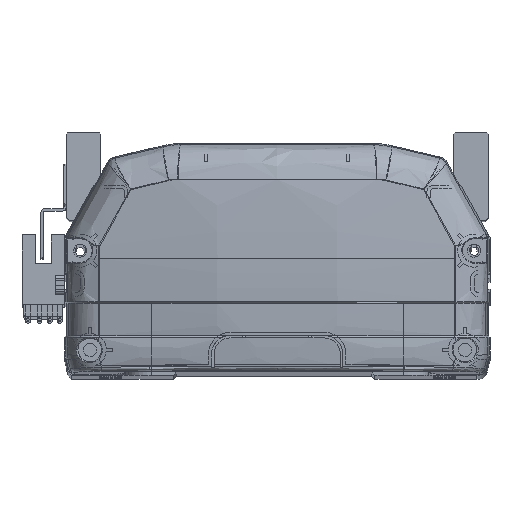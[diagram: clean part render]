
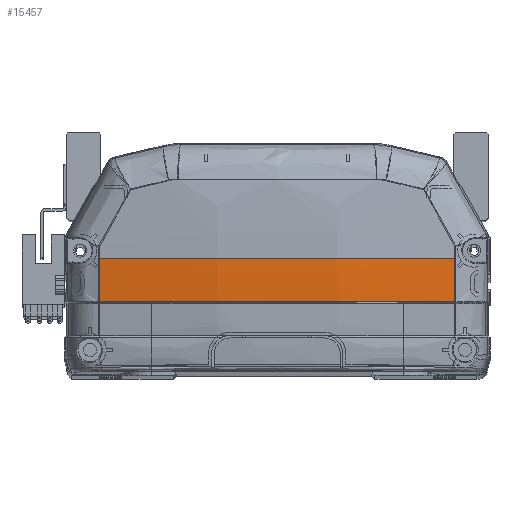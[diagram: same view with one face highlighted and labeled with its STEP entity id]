
A CAD part, top view. The second image highlights one B-rep face of the part: STEP entity #15457.
In plain terms, the highlighted free-form (B-spline) face has degree [3, 3] with [4, 4] control points.
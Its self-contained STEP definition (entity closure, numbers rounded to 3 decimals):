
#220 = CARTESIAN_POINT ( 'NONE',  ( 19.295, 36., -11.535 ) ) ;
#4138 = CARTESIAN_POINT ( 'NONE',  ( 19.295, 31.274, -11.535 ) ) ;
#4509 = CARTESIAN_POINT ( 'NONE',  ( -57.335, 26.762, -4.928 ) ) ;
#4638 = CARTESIAN_POINT ( 'NONE',  ( 19.121, 22.225, -9.064 ) ) ;
#4718 = CARTESIAN_POINT ( 'NONE',  ( 57.335, 36., -5.042 ) ) ;
#5560 = CARTESIAN_POINT ( 'NONE',  ( -56.661, 22.225, -4.818 ) ) ;
#6009 = DIRECTION ( 'NONE',  ( -1., 0., 0. ) ) ;
#7589 = CIRCLE ( 'NONE', #10619, 340.733 ) ;
#8164 = CARTESIAN_POINT ( 'NONE',  ( 56.661, 22.225, -4.818 ) ) ;
#8830 = EDGE_CURVE ( 'NONE', #47035, #22614, #49602, .T. ) ;
#8835 = CARTESIAN_POINT ( 'NONE',  ( -56.647, 36., -5.158 ) ) ;
#9017 = CARTESIAN_POINT ( 'NONE',  ( 57.335, 31.38, -5.042 ) ) ;
#9913 = CARTESIAN_POINT ( 'NONE',  ( 2.357, 22.225, -9.562 ) ) ;
#10027 =( BOUNDED_SURFACE ( )  B_SPLINE_SURFACE ( 3, 3, ( 
 ( #52849, #21821, #9017, #4718 ),
 ( #30746, #13288, #4138, #220 ),
 ( #13678, #30545, #31324, #40258 ),
 ( #13106, #4509, #35234, #22019 ) ),
 .UNSPECIFIED., .F., .F., .F. ) 
 B_SPLINE_SURFACE_WITH_KNOTS ( ( 4, 4 ),
 ( 4, 4 ),
 ( 0., 1. ),
 ( 0., 1. ),
 .UNSPECIFIED. ) 
 GEOMETRIC_REPRESENTATION_ITEM ( )  RATIONAL_B_SPLINE_SURFACE ( (
 ( 1., 1., 1., 1.),
 ( 0.99, 0.99, 0.99, 0.99),
 ( 0.99, 0.99, 0.99, 0.99),
 ( 1., 1., 1., 1.) ) ) 
 REPRESENTATION_ITEM ( '' )  SURFACE ( )  );
#10418 = EDGE_CURVE ( 'NONE', #25005, #12265, #30317, .T. ) ;
#10619 = AXIS2_PLACEMENT_3D ( 'NONE', #49246, #36068, #18016 ) ;
#12265 = VERTEX_POINT ( 'NONE', #40463 ) ;
#13106 = CARTESIAN_POINT ( 'NONE',  ( -57.335, 22.148, -4.7 ) ) ;
#13288 = CARTESIAN_POINT ( 'NONE',  ( 19.295, 26.549, -11.419 ) ) ;
#13678 = CARTESIAN_POINT ( 'NONE',  ( -19.295, 21.828, -11.186 ) ) ;
#13746 = ORIENTED_EDGE ( 'NONE', *, *, #50954, .F. ) ;
#14117 = CARTESIAN_POINT ( 'NONE',  ( -56.647, 36., -5.158 ) ) ;
#14383 = CARTESIAN_POINT ( 'NONE',  ( 47.432, 22.225, -6.377 ) ) ;
#14837 = EDGE_CURVE ( 'NONE', #25005, #22614, #44124, .T. ) ;
#15457 = ADVANCED_FACE ( 'NONE', ( #54652 ), #10027, .T. ) ;
#17155 = CARTESIAN_POINT ( 'NONE',  ( 56.647, 35.969, -5.158 ) ) ;
#18016 = DIRECTION ( 'NONE',  ( 0., 0., -1. ) ) ;
#18212 = CARTESIAN_POINT ( 'NONE',  ( -56.652, 26.814, -5.045 ) ) ;
#19058 = ORIENTED_EDGE ( 'NONE', *, *, #8830, .F. ) ;
#19258 = DIRECTION ( 'NONE',  ( 0., 0., -1. ) ) ;
#20948 = ORIENTED_EDGE ( 'NONE', *, *, #29540, .F. ) ;
#21821 = CARTESIAN_POINT ( 'NONE',  ( 57.335, 26.762, -4.928 ) ) ;
#22019 = CARTESIAN_POINT ( 'NONE',  ( -57.335, 36., -5.042 ) ) ;
#22182 = ORIENTED_EDGE ( 'NONE', *, *, #14837, .T. ) ;
#22614 = VERTEX_POINT ( 'NONE', #5560 ) ;
#22841 = CARTESIAN_POINT ( 'NONE',  ( -56.647, 31.405, -5.158 ) ) ;
#23024 = CARTESIAN_POINT ( 'NONE',  ( -56.661, 22.225, -4.818 ) ) ;
#23288 = CARTESIAN_POINT ( 'NONE',  ( -38.235, 22.225, -7.93 ) ) ;
#25005 = VERTEX_POINT ( 'NONE', #8164 ) ;
#26640 = ORIENTED_EDGE ( 'NONE', *, *, #10418, .F. ) ;
#27790 = CARTESIAN_POINT ( 'NONE',  ( -56.661, 22.225, -4.818 ) ) ;
#29540 = EDGE_CURVE ( 'NONE', #12265, #42237, #40244, .T. ) ;
#30317 = B_SPLINE_CURVE_WITH_KNOTS ( 'NONE', 3,
 ( #43460, #43082, #35884, #17155 ),
 .UNSPECIFIED., .F., .F.,
 ( 4, 4 ),
 ( 0., 1. ),
 .UNSPECIFIED. ) ;
#30545 = CARTESIAN_POINT ( 'NONE',  ( -19.295, 26.549, -11.419 ) ) ;
#30746 = CARTESIAN_POINT ( 'NONE',  ( 19.295, 21.828, -11.186 ) ) ;
#30868 = CARTESIAN_POINT ( 'NONE',  ( 23.877, 22.225, -8.763 ) ) ;
#31063 = CARTESIAN_POINT ( 'NONE',  ( 11.954, 22.225, -9.367 ) ) ;
#31252 = CARTESIAN_POINT ( 'NONE',  ( 56.661, 22.225, -4.818 ) ) ;
#31324 = CARTESIAN_POINT ( 'NONE',  ( -19.295, 31.274, -11.535 ) ) ;
#33552 = EDGE_LOOP ( 'NONE', ( #13746, #20948, #26640, #22182, #19058 ) ) ;
#35234 = CARTESIAN_POINT ( 'NONE',  ( -57.335, 31.38, -5.042 ) ) ;
#35745 = CARTESIAN_POINT ( 'NONE',  ( 38.071, 22.225, -7.566 ) ) ;
#35884 = CARTESIAN_POINT ( 'NONE',  ( 56.647, 31.387, -5.158 ) ) ;
#36068 = DIRECTION ( 'NONE',  ( 0., 1., 0. ) ) ;
#40244 = CIRCLE ( 'NONE', #54500, 6395.966 ) ;
#40258 = CARTESIAN_POINT ( 'NONE',  ( -19.295, 36., -11.535 ) ) ;
#40463 = CARTESIAN_POINT ( 'NONE',  ( 56.647, 35.969, -5.158 ) ) ;
#40976 = CARTESIAN_POINT ( 'NONE',  ( -19.28, 22.225, -9.565 ) ) ;
#42237 = VERTEX_POINT ( 'NONE', #55087 ) ;
#43082 = CARTESIAN_POINT ( 'NONE',  ( 56.652, 26.806, -5.044 ) ) ;
#43460 = CARTESIAN_POINT ( 'NONE',  ( 56.661, 22.225, -4.818 ) ) ;
#44124 = B_SPLINE_CURVE_WITH_KNOTS ( 'NONE', 3,
 ( #31252, #14383, #35745, #30868, #4638, #31063, #45445, #49899, #9913, #45629, #40976, #23288, #27790 ),
 .UNSPECIFIED., .F., .F.,
 ( 4, 2, 2, 1, 2, 2, 4 ),
 ( 0., 0.25, 0.375, 0.438, 0.469, 0.5, 1. ),
 .UNSPECIFIED. ) ;
#45445 = CARTESIAN_POINT ( 'NONE',  ( 8.363, 22.225, -9.48 ) ) ;
#45629 = CARTESIAN_POINT ( 'NONE',  ( 1.152, 22.225, -9.568 ) ) ;
#47035 = VERTEX_POINT ( 'NONE', #8835 ) ;
#49246 = CARTESIAN_POINT ( 'NONE',  ( 0., 36., 330.833 ) ) ;
#49602 = B_SPLINE_CURVE_WITH_KNOTS ( 'NONE', 3,
 ( #14117, #22841, #18212, #23024 ),
 .UNSPECIFIED., .F., .F.,
 ( 4, 4 ),
 ( 0., 1. ),
 .UNSPECIFIED. ) ;
#49899 = CARTESIAN_POINT ( 'NONE',  ( 4.761, 22.225, -9.537 ) ) ;
#50954 = EDGE_CURVE ( 'NONE', #42237, #47035, #7589, .T. ) ;
#52849 = CARTESIAN_POINT ( 'NONE',  ( 57.335, 22.148, -4.7 ) ) ;
#54500 = AXIS2_PLACEMENT_3D ( 'NONE', #54555, #19258, #6009 ) ;
#54555 = CARTESIAN_POINT ( 'NONE',  ( 6452.613, 35.969, -5.158 ) ) ;
#54652 = FACE_OUTER_BOUND ( 'NONE', #33552, .T. ) ;
#55087 = CARTESIAN_POINT ( 'NONE',  ( 56.647, 36., -5.158 ) ) ;
